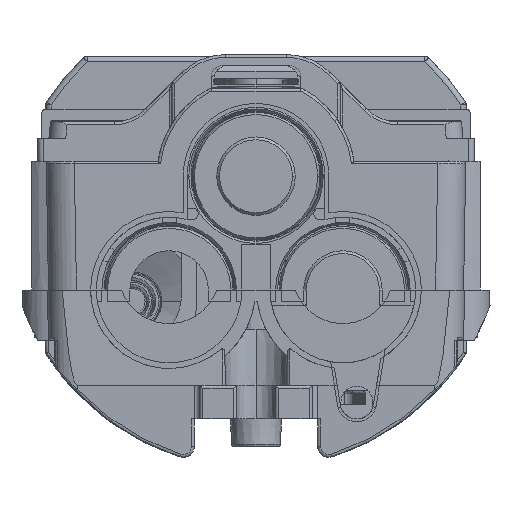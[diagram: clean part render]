
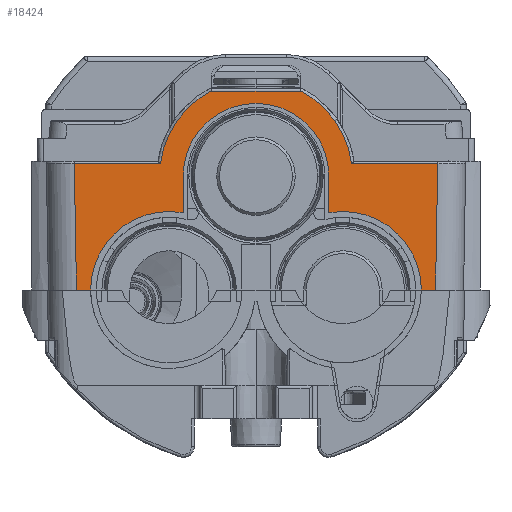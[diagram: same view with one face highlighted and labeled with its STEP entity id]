
A CAD part, left-side view. The second image highlights one B-rep face of the part: STEP entity #18424.
In plain terms, the highlighted planar face has unit normal (-1, 0, 0).
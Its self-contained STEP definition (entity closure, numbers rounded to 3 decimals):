
#1561 = CARTESIAN_POINT ( 'NONE',  ( -325.383, 13., 54.3 ) ) ;
#2090 = VERTEX_POINT ( 'NONE', #34764 ) ;
#2129 = CARTESIAN_POINT ( 'NONE',  ( -325.383, 37.029, 56.5 ) ) ;
#2731 = VERTEX_POINT ( 'NONE', #15040 ) ;
#3274 = CIRCLE ( 'NONE', #39018, 14. ) ;
#3279 = CARTESIAN_POINT ( 'NONE',  ( -325.383, 37.029, 56.5 ) ) ;
#3838 = CIRCLE ( 'NONE', #31514, 17.2 ) ;
#4045 = CARTESIAN_POINT ( 'NONE',  ( -325.383, 32.028, 34. ) ) ;
#4399 = AXIS2_PLACEMENT_3D ( 'NONE', #7358, #36828, #11484 ) ;
#5048 = DIRECTION ( 'NONE',  ( 0., 1., 0. ) ) ;
#5120 = CARTESIAN_POINT ( 'NONE',  ( -325.383, -32.421, 56.5 ) ) ;
#5218 = ORIENTED_EDGE ( 'NONE', *, *, #27764, .T. ) ;
#5520 = CARTESIAN_POINT ( 'NONE',  ( -325.383, -15.5, 34. ) ) ;
#5884 = VERTEX_POINT ( 'NONE', #51752 ) ;
#6314 = ORIENTED_EDGE ( 'NONE', *, *, #15220, .F. ) ;
#6480 = VERTEX_POINT ( 'NONE', #23283 ) ;
#6559 = PLANE ( 'NONE',  #7936 ) ;
#6663 = CARTESIAN_POINT ( 'NONE',  ( -325.383, 0., 54.3 ) ) ;
#7218 = VERTEX_POINT ( 'NONE', #42318 ) ;
#7279 = VERTEX_POINT ( 'NONE', #13499 ) ;
#7358 = CARTESIAN_POINT ( 'NONE',  ( -325.383, 0., 54.3 ) ) ;
#7462 = CARTESIAN_POINT ( 'NONE',  ( -325.383, -13., 47.775 ) ) ;
#7936 = AXIS2_PLACEMENT_3D ( 'NONE', #40214, #14887, #44374 ) ;
#8964 = VECTOR ( 'NONE', #22694, 1000. ) ;
#9656 = DIRECTION ( 'NONE',  ( 0., -1., 0. ) ) ;
#10233 = DIRECTION ( 'NONE',  ( 0., 1., 0. ) ) ;
#10818 = DIRECTION ( 'NONE',  ( 0., 0., -1. ) ) ;
#11005 = VECTOR ( 'NONE', #49531, 1000. ) ;
#11484 = DIRECTION ( 'NONE',  ( 0., -1., 0. ) ) ;
#11588 = CARTESIAN_POINT ( 'NONE',  ( -325.383, 29.5, 34. ) ) ;
#12096 = CARTESIAN_POINT ( 'NONE',  ( -325.383, 0., 54.3 ) ) ;
#12299 = LINE ( 'NONE', #24331, #11005 ) ;
#12455 = VERTEX_POINT ( 'NONE', #7462 ) ;
#12601 = CARTESIAN_POINT ( 'NONE',  ( -325.383, -8.05, 69.5 ) ) ;
#12884 = LINE ( 'NONE', #1561, #16849 ) ;
#13132 = EDGE_CURVE ( 'NONE', #2090, #5884, #12299, .T. ) ;
#13360 = EDGE_CURVE ( 'NONE', #2090, #12455, #3274, .T. ) ;
#13499 = CARTESIAN_POINT ( 'NONE',  ( -325.383, 17.059, 56.5 ) ) ;
#14887 = DIRECTION ( 'NONE',  ( 1., 0., 0. ) ) ;
#15040 = CARTESIAN_POINT ( 'NONE',  ( -325.383, 32.421, 56.5 ) ) ;
#15220 = EDGE_CURVE ( 'NONE', #50980, #7218, #21897, .T. ) ;
#15288 = ORIENTED_EDGE ( 'NONE', *, *, #27672, .T. ) ;
#15300 = EDGE_CURVE ( 'NONE', #12455, #50980, #51469, .T. ) ;
#15638 = CARTESIAN_POINT ( 'NONE',  ( -325.383, 37.029, 69.5 ) ) ;
#16304 = DIRECTION ( 'NONE',  ( 0., 0., -1. ) ) ;
#16849 = VECTOR ( 'NONE', #44004, 1000. ) ;
#17711 = VERTEX_POINT ( 'NONE', #12601 ) ;
#17863 = ORIENTED_EDGE ( 'NONE', *, *, #25974, .T. ) ;
#18187 = VECTOR ( 'NONE', #30544, 1000. ) ;
#18284 = ORIENTED_EDGE ( 'NONE', *, *, #24943, .T. ) ;
#18424 = ADVANCED_FACE ( 'NONE', ( #46837 ), #6559, .F. ) ;
#18903 = LINE ( 'NONE', #3279, #28854 ) ;
#19506 = LINE ( 'NONE', #51381, #18187 ) ;
#19976 = ORIENTED_EDGE ( 'NONE', *, *, #22197, .T. ) ;
#20674 = EDGE_CURVE ( 'NONE', #17711, #53976, #26179, .T. ) ;
#21618 = ORIENTED_EDGE ( 'NONE', *, *, #22505, .F. ) ;
#21795 = AXIS2_PLACEMENT_3D ( 'NONE', #12096, #41626, #16304 ) ;
#21897 = CIRCLE ( 'NONE', #4399, 13. ) ;
#22197 = EDGE_CURVE ( 'NONE', #47918, #48493, #27356, .T. ) ;
#22505 = EDGE_CURVE ( 'NONE', #7218, #6480, #12884, .T. ) ;
#22694 = DIRECTION ( 'NONE',  ( 0., -0.017, 1. ) ) ;
#22981 = DIRECTION ( 'NONE',  ( -1., 0., 0. ) ) ;
#23283 = CARTESIAN_POINT ( 'NONE',  ( -325.383, 13., 47.775 ) ) ;
#23438 = CARTESIAN_POINT ( 'NONE',  ( -325.383, -17.059, 56.5 ) ) ;
#23484 = EDGE_CURVE ( 'NONE', #6480, #48493, #45757, .T. ) ;
#24331 = CARTESIAN_POINT ( 'NONE',  ( -325.383, 37.029, 34. ) ) ;
#24660 = DIRECTION ( 'NONE',  ( 0., 0., 1. ) ) ;
#24943 = EDGE_CURVE ( 'NONE', #7279, #2731, #18903, .T. ) ;
#25658 = EDGE_CURVE ( 'NONE', #2731, #47918, #19506, .T. ) ;
#25963 = ORIENTED_EDGE ( 'NONE', *, *, #23484, .F. ) ;
#25974 = EDGE_CURVE ( 'NONE', #53976, #7279, #37458, .T. ) ;
#26179 = LINE ( 'NONE', #15638, #36281 ) ;
#26286 = EDGE_CURVE ( 'NONE', #33417, #46592, #46479, .T. ) ;
#27356 = LINE ( 'NONE', #41006, #47145 ) ;
#27531 = ORIENTED_EDGE ( 'NONE', *, *, #25658, .T. ) ;
#27672 = EDGE_CURVE ( 'NONE', #5884, #33417, #52211, .T. ) ;
#27764 = EDGE_CURVE ( 'NONE', #46592, #17711, #3838, .T. ) ;
#27831 = VECTOR ( 'NONE', #24660, 1000. ) ;
#28854 = VECTOR ( 'NONE', #5048, 1000. ) ;
#29415 = ORIENTED_EDGE ( 'NONE', *, *, #15300, .F. ) ;
#30544 = DIRECTION ( 'NONE',  ( 0., -0.017, -1. ) ) ;
#31514 = AXIS2_PLACEMENT_3D ( 'NONE', #6663, #36147, #10818 ) ;
#32767 = DIRECTION ( 'NONE',  ( 0., -1., 0. ) ) ;
#33101 = ORIENTED_EDGE ( 'NONE', *, *, #13132, .T. ) ;
#33417 = VERTEX_POINT ( 'NONE', #5120 ) ;
#34011 = ORIENTED_EDGE ( 'NONE', *, *, #13360, .F. ) ;
#34764 = CARTESIAN_POINT ( 'NONE',  ( -325.383, -29.5, 34. ) ) ;
#34976 = DIRECTION ( 'NONE',  ( -1., 0., 0. ) ) ;
#35426 = VECTOR ( 'NONE', #10233, 1000. ) ;
#36147 = DIRECTION ( 'NONE',  ( -1., 0., 0. ) ) ;
#36281 = VECTOR ( 'NONE', #45110, 1000. ) ;
#36828 = DIRECTION ( 'NONE',  ( -1., 0., 0. ) ) ;
#36942 = ORIENTED_EDGE ( 'NONE', *, *, #26286, .T. ) ;
#37287 = CARTESIAN_POINT ( 'NONE',  ( -325.383, -13., 54.3 ) ) ;
#37303 = CARTESIAN_POINT ( 'NONE',  ( -325.383, 8.05, 69.5 ) ) ;
#37380 = CARTESIAN_POINT ( 'NONE',  ( -325.383, -13., 54.3 ) ) ;
#37458 = CIRCLE ( 'NONE', #21795, 17.2 ) ;
#39018 = AXIS2_PLACEMENT_3D ( 'NONE', #5520, #34976, #9656 ) ;
#40214 = CARTESIAN_POINT ( 'NONE',  ( -325.383, 37.029, 76. ) ) ;
#41006 = CARTESIAN_POINT ( 'NONE',  ( -325.383, 37.029, 34. ) ) ;
#41626 = DIRECTION ( 'NONE',  ( -1., 0., 0. ) ) ;
#42318 = CARTESIAN_POINT ( 'NONE',  ( -325.383, 13., 54.3 ) ) ;
#42613 = ORIENTED_EDGE ( 'NONE', *, *, #20674, .T. ) ;
#42812 = EDGE_LOOP ( 'NONE', ( #17863, #18284, #27531, #19976, #25963, #21618, #6314, #29415, #34011, #33101, #15288, #36942, #5218, #42613 ) ) ;
#44004 = DIRECTION ( 'NONE',  ( 0., 0., -1. ) ) ;
#44374 = DIRECTION ( 'NONE',  ( 0., 0., -1. ) ) ;
#45110 = DIRECTION ( 'NONE',  ( 0., 1., 0. ) ) ;
#45757 = CIRCLE ( 'NONE', #54062, 14. ) ;
#46479 = LINE ( 'NONE', #2129, #35426 ) ;
#46592 = VERTEX_POINT ( 'NONE', #23438 ) ;
#46837 = FACE_OUTER_BOUND ( 'NONE', #42812, .T. ) ;
#47145 = VECTOR ( 'NONE', #32767, 1000. ) ;
#47918 = VERTEX_POINT ( 'NONE', #4045 ) ;
#47936 = CARTESIAN_POINT ( 'NONE',  ( -325.383, -32.74, 74.782 ) ) ;
#48212 = CARTESIAN_POINT ( 'NONE',  ( -325.383, 15.5, 34. ) ) ;
#48493 = VERTEX_POINT ( 'NONE', #11588 ) ;
#49531 = DIRECTION ( 'NONE',  ( 0., -1., 0. ) ) ;
#50980 = VERTEX_POINT ( 'NONE', #37287 ) ;
#51381 = CARTESIAN_POINT ( 'NONE',  ( -325.383, 32.762, 76.074 ) ) ;
#51469 = LINE ( 'NONE', #37380, #27831 ) ;
#51752 = CARTESIAN_POINT ( 'NONE',  ( -325.383, -32.028, 34. ) ) ;
#52211 = LINE ( 'NONE', #47936, #8964 ) ;
#52356 = DIRECTION ( 'NONE',  ( 0., -1., 0. ) ) ;
#53976 = VERTEX_POINT ( 'NONE', #37303 ) ;
#54062 = AXIS2_PLACEMENT_3D ( 'NONE', #48212, #22981, #52356 ) ;
